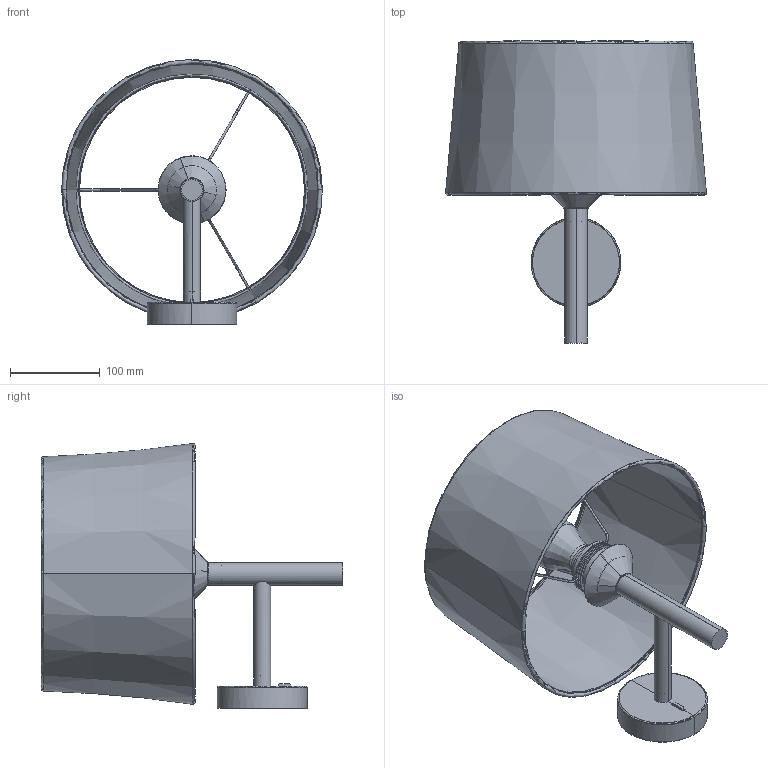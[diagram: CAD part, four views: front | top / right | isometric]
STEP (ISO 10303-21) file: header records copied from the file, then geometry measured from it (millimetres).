
FILE_DESCRIPTION(/* description */ (''),/* implementation_level */ '2;1');
FILE_NAME(/* name */ 'windsor_walllamp.step',/* time_stamp */ '2024-11-15T11:22:38+01:00',/* author */ ('RenataManzini'),/* organization */ (''),/* preprocessor_version */ 'ST-DEVELOPER v20',/* originating_system */ 'AutoCAD Mechanical',/* authorisation */ '');
FILE_SCHEMA (('AUTOMOTIVE_DESIGN { 1 0 10303 214 3 1 1 }'));
Length unit declared in the file: millimetre
Products named in the file (3): Product; 20300_20301_SAVOY - SAVOY STRUCTURE-448805-_3D_; pantalla_20300-1 - WINDSOR shade-448806-_3D_
Assembly tree (2 placements, depth 2):
  Product
    20300_20301_SAVOY - SAVOY STRUCTURE-448805-_3D_
    pantalla_20300-1 - WINDSOR shade-448806-_3D_
Bounding box: 290.58 x 336.4 x 295.29 mm (x, y, z)
Volume: 414673.8 mm3; surface area: 487035 mm2
Topology: 18 solids, 18 shells, 255 faces, 552 edges, 324 vertices
Faces by surface type: cylinder 100, plane 75, torus 50, cone 20, bspline 10
Entity records: 13435 total; most frequent: CARTESIAN_POINT 8074, ORIENTED_EDGE 1088, DIRECTION 1040, EDGE_CURVE 544, AXIS2_PLACEMENT_3D 417, VERTEX_POINT 318, EDGE_LOOP 280, FACE_OUTER_BOUND 255
